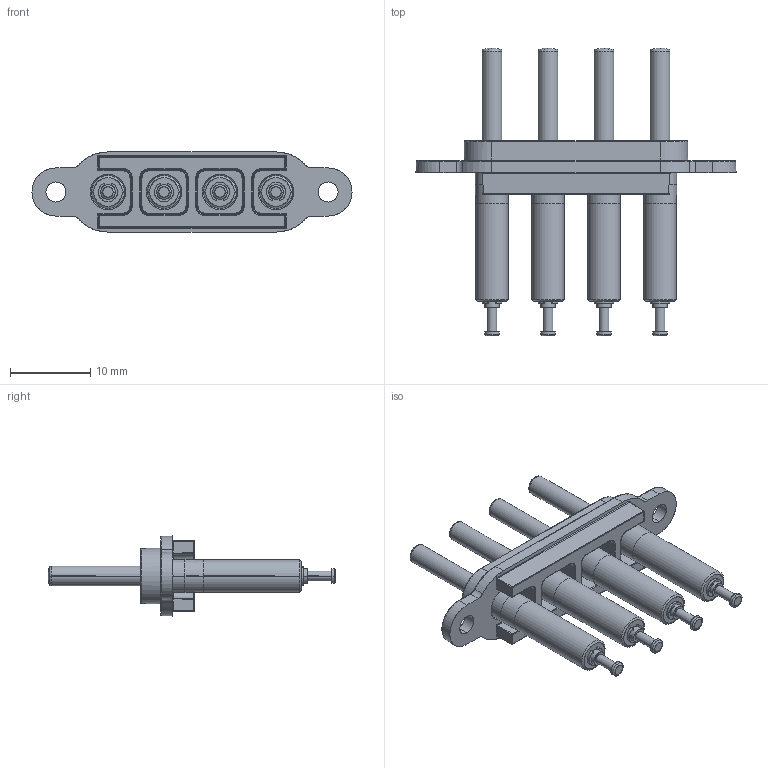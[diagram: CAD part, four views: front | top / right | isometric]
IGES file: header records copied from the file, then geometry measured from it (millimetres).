
Start section: SolidWorks IGES file using analytic representation for surfaces
Global section: file name: \\CODA-VM-SBS\RedirectedFolders\georged\My Documents\Coda\ICA Connectors\ICA-4-SCT.IGS; native system: SolidWorks 2022; preprocessor: SolidWorks 2022; author: GeorgeD; date: 230208.102653; units: millimetre
Bounding box: 40 x 35.95 x 10 mm (x, y, z)
Surface area: 3031.5 mm2 (no closed solid volume)
Topology: 0 solids, 0 shells, 462 faces, 4146 edges, 4142 vertices
Faces by surface type: bspline 264, revolution 198
